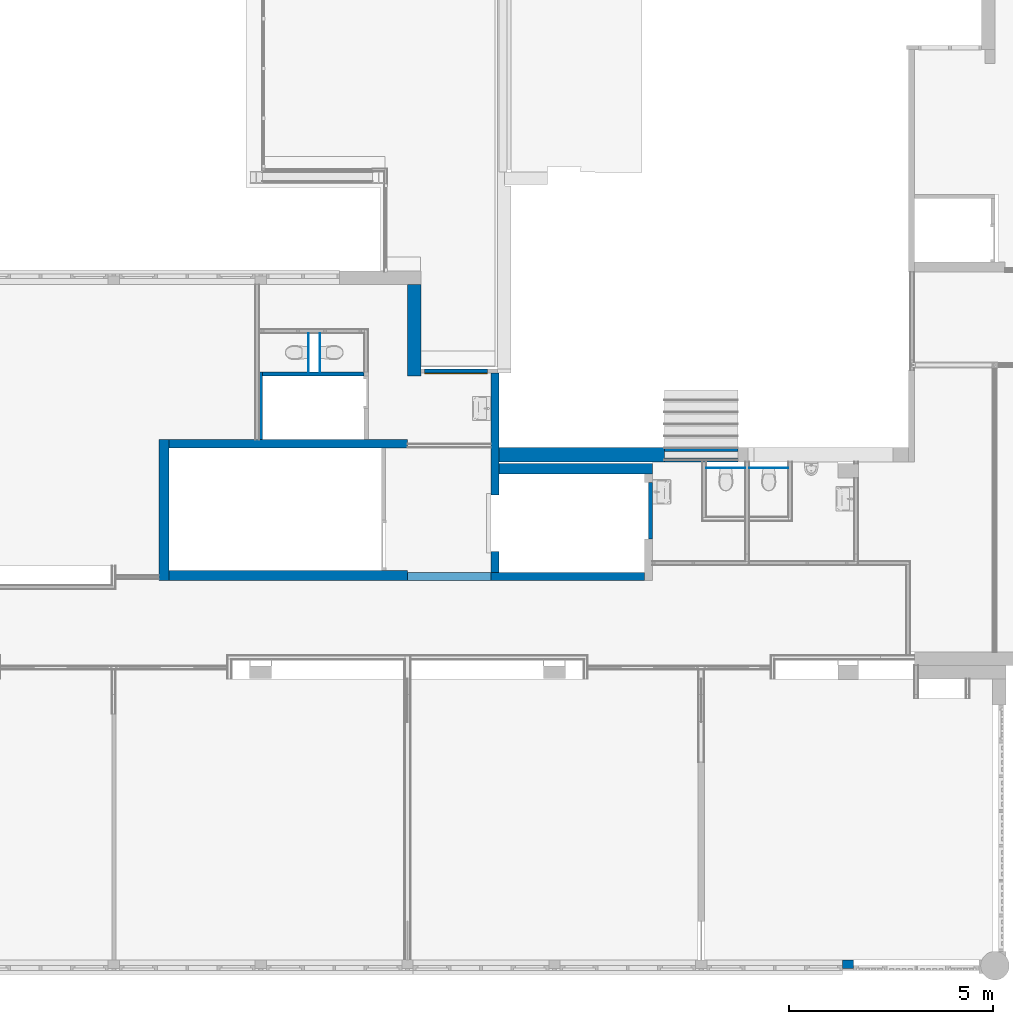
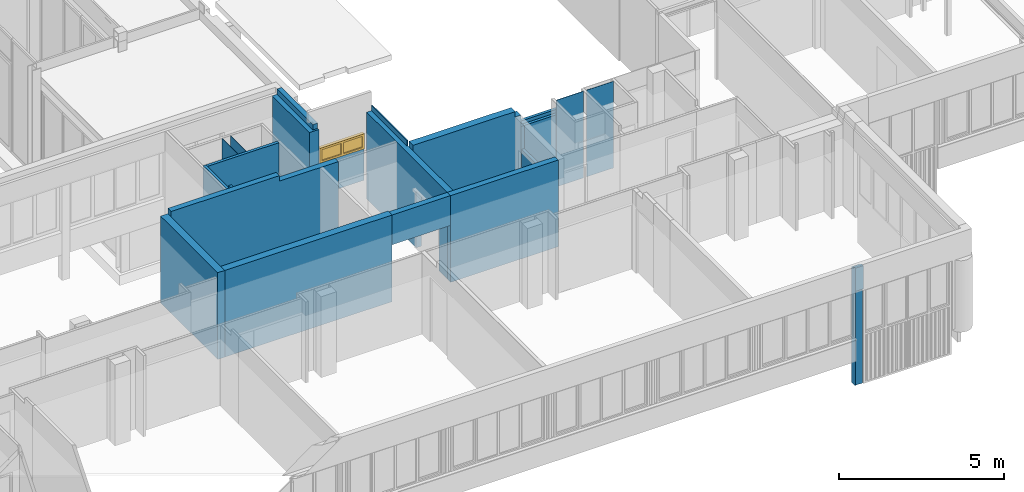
# One storey, part 42 of 99: 20 walls, 1 window, 3 openings.
"""IFC2X3 building model written with IfcOpenShell, lengths in millimetres."""

from ifc_helpers import new_model, entity, si_unit, converted_unit, derived_unit, money_unit, direction, frame, origin_with_axes, place, context, subcontext, project, spatial, open_shell, faceted_brep, surface_model, material, type_object, element, fill, save


model = new_model("IFC2X3")

# Units and contexts
model_context = context("Model", 3, precision=0.01, world=origin_with_axes(), true_north=direction((0.0, 1.0)))
body_context = subcontext(model_context, "Body", "Model", "MODEL_VIEW")
ifc_project = project(units=[si_unit("LENGTHUNIT", "METRE", prefix="MILLI"), si_unit("AREAUNIT", "SQUARE_METRE"), si_unit("VOLUMEUNIT", "CUBIC_METRE"), converted_unit("PLANEANGLEUNIT", "DEGREE", entity("IfcPlaneAngleMeasure", 0.0174532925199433), si_unit("PLANEANGLEUNIT", "RADIAN"), dimensions=[0, 0, 0, 0, 0, 0, 0]), money_unit("EUR"), converted_unit("TIMEUNIT", "Year", entity("IfcTimeMeasure", 31557600.0), si_unit("TIMEUNIT", "SECOND"), dimensions=[0, 0, 1, 0, 0, 0, 0]), si_unit("MASSUNIT", "GRAM", prefix="KILO"), si_unit("THERMODYNAMICTEMPERATUREUNIT", "DEGREE_CELSIUS"), si_unit("LUMINOUSINTENSITYUNIT", "LUMEN"), si_unit("ENERGYUNIT", "JOULE", prefix="MEGA"), derived_unit("THERMALCONDUCTANCEUNIT", [(si_unit("POWERUNIT", "WATT"), 1), (si_unit("LENGTHUNIT", "METRE"), -1), (si_unit("THERMODYNAMICTEMPERATUREUNIT", "KELVIN"), -1)]), derived_unit("SPECIFICHEATCAPACITYUNIT", [(si_unit("ENERGYUNIT", "JOULE"), 1), (si_unit("MASSUNIT", "GRAM", prefix="KILO"), -1), (si_unit("THERMODYNAMICTEMPERATUREUNIT", "KELVIN"), -1)]), derived_unit("MASSDENSITYUNIT", [(si_unit("MASSUNIT", "GRAM", prefix="KILO"), 1), (si_unit("VOLUMEUNIT", "CUBIC_METRE"), -1)])], contexts=[model_context])

# Site, building, storey
site_placement = place(None, origin_with_axes())
site = spatial("IfcSite", under=ifc_project, at=site_placement, Name="Site", CompositionType="ELEMENT")
building_placement = place(site_placement, origin_with_axes())
building = spatial("IfcBuilding", under=site, at=building_placement, Name="Naam gebouw", CompositionType="ELEMENT")
storey_placement = place(building_placement, frame((0.0, 0.0, 7650.0), z_axis=(0.0, 0.0, 1.0), x_axis=(1.0, 0.0, 0.0)))
storey = spatial("IfcBuildingStorey", under=building, at=storey_placement, Name="2e verdieping N", CompositionType="ELEMENT", Elevation=7650.0)

# Wall, opening, window
ifc_material_1 = material(Name="ALG - CONSTRUCTIEF")
wall_type_1 = type_object("IfcWallType", Name="ALG - CONSTRUCTIEF 100", PredefinedType="NOTDEFINED")
wall_1_placement = place(storey_placement, frame((18412.99914340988, 17874.75122651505, 720.0000000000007), z_axis=(0.0, 0.0, 1.0), x_axis=(1.0, 0.0, 0.0)))
wall_1 = element("IfcWall", 1, at=wall_1_placement, inside=storey, type_object=wall_type_1, material=ifc_material_1, Name="_Wand-x", context=body_context, shape_type="Brep", body=[
    faceted_brep([(0.0, 49.49999999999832, 1169.999999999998), (0.0, -50.00000000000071, 1169.999999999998), (1545.000000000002, -50.00000000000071, 1169.999999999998), (1545.000000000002, 49.49999999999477, 1169.999999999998), (1545.000000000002, 50.00000000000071, 1169.999999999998), (0.0, 50.00000000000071, 1169.999999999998), (0.0, 50.00000000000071, 0.0), (0.0, -50.00000000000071, 0.0), (1545.000000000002, -50.00000000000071, 0.0), (1545.000000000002, 50.00000000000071, 0.0)], [[[0, 1, 2, 3, 4, 5]], [[1, 0, 5, 6, 7]], [[2, 1, 7, 8]], [[3, 2, 8, 9, 4]], [[4, 9, 6, 5]], [[8, 7, 6, 9]]]),
])
opening_1_placement = place(wall_1_placement, frame((772.5000000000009, 0.0, 1169.999999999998), z_axis=(0.0, 0.0, 1.0), x_axis=(1.0, 0.0, 0.0)))
opening_1 = element("IfcOpeningElement", 2, at=opening_1_placement, cuts=wall_1, Name="_Merk-048", context=body_context, shape_type="Brep", body=[
    faceted_brep([(-772.5000000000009, 49.49999999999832, 0.0), (-772.5000000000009, 49.49999999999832, 550.0000000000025), (-772.5000000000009, 51.00000000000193, 550.0000000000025), (-772.5000000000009, 51.00000000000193, 0.0), (-772.5000000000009, -51.00000000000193, 0.0), (-772.5000000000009, -51.00000000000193, 550.0000000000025), (772.5000000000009, 49.49999999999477, 550.0000000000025), (772.5000000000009, 51.00000000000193, 550.0000000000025), (772.5000000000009, -51.00000000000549, 550.0000000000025), (772.5000000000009, 51.00000000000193, 0.0), (772.5000000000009, 49.49999999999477, 0.0), (772.5000000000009, -51.00000000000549, 0.0)], [[[0, 1, 2, 3]], [[1, 0, 4, 5]], [[6, 7, 2, 1, 5, 8]], [[7, 9, 3, 2]], [[0, 3, 9, 10, 11, 4]], [[5, 4, 11, 8]], [[6, 10, 9, 7]], [[10, 6, 8, 11]]]),
])
window_style = type_object("IfcWindowStyle", Name="R2 bl ol 27", ConstructionType="NOTDEFINED", OperationType="DOUBLE_PANEL_VERTICAL", ParameterTakesPrecedence=False, Sizeable=False)
window_placement = place(opening_1_placement, frame((772.5000000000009, 0.0, 0.0), z_axis=(0.0, 0.0, 1.0), x_axis=(-1.0, 0.0, 0.0)))
window = element("IfcWindow", 3, at=window_placement, inside=storey, type_object=window_style, Name="_Merk-048", ObjectType="WINDOW", OverallHeight=550.0, OverallWidth=1545.0, context=body_context, shape_type="SurfaceModel", body=[
    faceted_brep([(67.00000000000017, -49.49999999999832, 483.0000000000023), (67.00000000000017, 64.50000000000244, 483.0000000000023), (0.0, 64.50000000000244, 483.0000000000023), (0.0, -49.49999999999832, 483.0000000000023), (67.00000000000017, -49.49999999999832, 67.00000000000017), (67.00000000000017, 64.50000000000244, 67.00000000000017), (0.0, 64.50000000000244, 67.00000000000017), (0.0, -49.49999999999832, 67.00000000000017)], [[[0, 1, 2, 3]], [[4, 5, 1, 0]], [[1, 5, 6, 2]], [[3, 2, 6, 7]], [[0, 3, 7, 4]], [[7, 6, 5, 4]]]),
    faceted_brep([(1478.000000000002, -49.49999999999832, 67.00000000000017), (1478.000000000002, 64.50000000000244, 67.00000000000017), (1545.000000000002, 64.50000000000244, 67.00000000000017), (1545.000000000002, -49.49999999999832, 67.00000000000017), (1478.000000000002, -49.49999999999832, 483.0000000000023), (1478.000000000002, 64.50000000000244, 483.0000000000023), (1545.000000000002, 64.50000000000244, 483.0000000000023), (1545.000000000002, -49.49999999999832, 483.0000000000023)], [[[0, 1, 2, 3]], [[4, 5, 1, 0]], [[1, 5, 6, 2]], [[3, 2, 6, 7]], [[0, 3, 7, 4]], [[7, 6, 5, 4]]]),
    faceted_brep([(739.0000000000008, -49.49999999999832, 67.00000000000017), (739.0000000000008, 64.50000000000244, 67.00000000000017), (806.0000000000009, 64.50000000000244, 67.00000000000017), (806.0000000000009, -49.49999999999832, 67.00000000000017), (739.0000000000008, -49.49999999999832, 483.0000000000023), (739.0000000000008, 64.50000000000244, 483.0000000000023), (806.0000000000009, 64.50000000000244, 483.0000000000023), (806.0000000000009, -49.49999999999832, 483.0000000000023)], [[[0, 1, 2, 3]], [[4, 5, 1, 0]], [[1, 5, 6, 2]], [[3, 2, 6, 7]], [[0, 3, 7, 4]], [[7, 6, 5, 4]]]),
    faceted_brep([(67.00000000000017, -49.49999999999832, 67.00000000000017), (67.00000000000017, 64.50000000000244, 67.00000000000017), (0.0, 64.50000000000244, 67.00000000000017), (0.0, -49.49999999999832, 67.00000000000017), (739.0000000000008, -49.49999999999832, 67.00000000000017), (739.0000000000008, 64.50000000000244, 67.00000000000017), (806.0000000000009, 64.50000000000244, 67.00000000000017), (1478.000000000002, 64.50000000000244, 67.00000000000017), (1545.000000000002, 64.50000000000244, 67.00000000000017), (1545.000000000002, 64.50000000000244, 0.0), (0.0, 64.50000000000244, 0.0), (0.0, -49.49999999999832, 0.0), (1545.000000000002, -49.49999999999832, 0.0), (1545.000000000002, -49.49999999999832, 67.00000000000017), (1478.000000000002, -49.49999999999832, 67.00000000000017), (806.0000000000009, -49.49999999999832, 67.00000000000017)], [[[0, 1, 2, 3]], [[4, 5, 1, 0]], [[1, 5, 6, 7, 8, 9, 10, 2]], [[3, 2, 10, 11]], [[0, 3, 11, 12, 13, 14, 15, 4]], [[15, 6, 5, 4]], [[14, 7, 6, 15]], [[13, 8, 7, 14]], [[12, 9, 8, 13]], [[11, 10, 9, 12]]]),
    faceted_brep([(739.0000000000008, -49.49999999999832, 483.0000000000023), (739.0000000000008, 64.50000000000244, 483.0000000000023), (806.0000000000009, 64.50000000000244, 483.0000000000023), (806.0000000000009, -49.49999999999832, 483.0000000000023), (67.00000000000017, -49.49999999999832, 483.0000000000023), (67.00000000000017, 64.50000000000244, 483.0000000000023), (0.0, 64.50000000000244, 483.0000000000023), (0.0, 64.50000000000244, 550.0000000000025), (1545.000000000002, 64.50000000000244, 550.0000000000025), (1545.000000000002, 64.50000000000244, 483.0000000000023), (1478.000000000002, 64.50000000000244, 483.0000000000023), (1478.000000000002, -49.49999999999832, 483.0000000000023), (1545.000000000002, -49.49999999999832, 483.0000000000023), (1545.000000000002, -49.49999999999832, 550.0000000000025), (0.0, -49.49999999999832, 550.0000000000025), (0.0, -49.49999999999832, 483.0000000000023)], [[[0, 1, 2, 3]], [[4, 5, 1, 0]], [[1, 5, 6, 7, 8, 9, 10, 2]], [[3, 2, 10, 11]], [[0, 3, 11, 12, 13, 14, 15, 4]], [[15, 6, 5, 4]], [[14, 7, 6, 15]], [[13, 8, 7, 14]], [[12, 9, 8, 13]], [[11, 10, 9, 12]]]),
    surface_model("IfcShellBasedSurfaceModel", [(67.00000000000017, 0.5000000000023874, 67.00000000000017), (739.0000000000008, 0.5000000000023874, 67.00000000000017), (739.0000000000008, 0.5000000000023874, 483.0000000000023), (67.00000000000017, 0.5000000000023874, 483.0000000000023)], [open_shell([[[0, 1, 2, 3]]])]),
    surface_model("IfcShellBasedSurfaceModel", [(67.00000000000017, 20.50000000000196, 67.00000000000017), (67.00000000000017, 20.50000000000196, 483.0000000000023), (739.0000000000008, 20.50000000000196, 483.0000000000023), (739.0000000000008, 20.50000000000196, 67.00000000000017)], [open_shell([[[0, 1, 2, 3]]])]),
    surface_model("IfcShellBasedSurfaceModel", [(806.0000000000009, 0.5000000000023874, 67.00000000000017), (1478.000000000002, 0.5000000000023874, 67.00000000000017), (1478.000000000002, 0.5000000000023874, 483.0000000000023), (806.0000000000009, 0.5000000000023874, 483.0000000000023)], [open_shell([[[0, 1, 2, 3]]])]),
    surface_model("IfcShellBasedSurfaceModel", [(806.0000000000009, 20.50000000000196, 67.00000000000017), (806.0000000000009, 20.50000000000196, 483.0000000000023), (1478.000000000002, 20.50000000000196, 483.0000000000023), (1478.000000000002, 20.50000000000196, 67.00000000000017)], [open_shell([[[0, 1, 2, 3]]])]),
])
fill(opening_1, window)

# Walls
wall_2_placement = place(storey_placement, frame((16937.79224075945, 17806.42315075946, -99.99999999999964), z_axis=(0.0, 0.0, 1.0), x_axis=(-1.0, 0.0, 0.0)))
element("IfcWall", 4, at=wall_2_placement, inside=storey, type_object=wall_type_1, material=ifc_material_1, Name="_Wand-x", context=body_context, shape_type="Brep", body=[
    faceted_brep([(2487.792240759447, -50.00000000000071, 99.99999999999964), (2487.792240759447, -50.00000000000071, 3299.999999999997), (0.0, -50.00000000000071, 3299.999999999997), (0.0, -50.00000000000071, 99.99999999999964), (2487.792240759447, 50.00000000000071, 99.99999999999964), (2487.792240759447, 50.00000000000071, 3299.999999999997), (0.0, 50.00000000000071, 3299.999999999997), (0.0, 50.00000000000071, 99.99999999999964)], [[[0, 1, 2, 3]], [[4, 5, 1, 0]], [[5, 6, 2, 1]], [[3, 2, 6, 7]], [[4, 0, 3, 7]], [[7, 6, 5, 4]]]),
])
wall_3_placement = place(storey_placement, frame((14400.0, 17806.42315075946, -99.99999999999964), z_axis=(0.0, 0.0, 1.0), x_axis=(0.0, -1.0, 0.0)))
element("IfcWall", 5, at=wall_3_placement, inside=storey, type_object=wall_type_1, material=ifc_material_1, Name="_Wand-x", context=body_context, shape_type="Brep", body=[
    faceted_brep([(-50.00000000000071, -50.00000000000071, 99.99999999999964), (-50.00000000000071, -49.99999999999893, 3299.999999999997), (-50.00000000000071, 50.00000000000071, 3299.999999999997), (-50.00000000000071, 50.00000000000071, 99.99999999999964), (1490.510725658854, -50.00000000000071, 3500.0), (1490.510725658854, -50.00000000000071, 3299.999999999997), (1610.502890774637, -50.00000000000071, 99.99999999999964), (1610.502890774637, -50.00000000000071, 3500.0), (1490.510725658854, 50.00000000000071, 3299.999999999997), (1490.510725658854, 50.00000000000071, 3500.0), (1610.502890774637, 50.00000000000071, 3500.0), (1610.502890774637, 49.99999999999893, 99.99999999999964)], [[[0, 1, 2, 3]], [[4, 5, 1, 0, 6, 7]], [[5, 8, 2, 1]], [[2, 8, 9, 10, 11, 3]], [[6, 0, 3, 11]], [[5, 4, 9, 8]], [[7, 6, 11, 10]], [[10, 9, 4, 7]]]),
])

# Wall, opening
wall_type_2 = type_object("IfcWallType", Name="ALG - CONSTRUCTIEF 200", PredefinedType="NOTDEFINED")
wall_4_placement = place(storey_placement, frame((20040.99999999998, 12744.60803964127, -99.99999999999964), z_axis=(0.0, 0.0, 1.0), x_axis=(-1.0, 0.0, 0.0)))
wall_4 = element("IfcWall", 6, at=wall_4_placement, inside=storey, type_object=wall_type_2, material=ifc_material_1, Name="_Wand-x", context=body_context, shape_type="Brep", body=[
    faceted_brep([(0.0, 0.0, 2199.999999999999), (0.0, -199.9999999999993, 2199.999999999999), (0.0, -199.9999999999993, 3299.999999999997), (0.0, 0.0, 3299.999999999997), (2040.999999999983, -199.9999999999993, 2199.999999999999), (2040.999999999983, 0.0, 2199.999999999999), (2040.999999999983, -199.9999999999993, 3299.999999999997), (2040.999999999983, 0.0, 3299.999999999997)], [[[0, 1, 2, 3]], [[4, 1, 0, 5]], [[1, 4, 6, 2]], [[3, 2, 6, 7]], [[5, 0, 3, 7]], [[4, 5, 7, 6]]]),
])
opening_2_placement = place(wall_4_placement, frame((1020.499999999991, 0.0, 99.99999999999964), z_axis=(0.0, 0.0, 1.0), x_axis=(1.0, 0.0, 0.0)))
element("IfcOpeningElement", 7, at=opening_2_placement, cuts=wall_4, Name="_", context=body_context, shape_type="Brep", body=[
    faceted_brep([(-1020.499999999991, -201.0000000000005, 2100.0), (-1020.499999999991, -201.0000000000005, 0.0), (1020.499999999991, -201.0000000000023, 0.0), (1020.499999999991, -201.0000000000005, 2100.0), (-1020.499999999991, 1.000000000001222, 2100.0), (-1020.499999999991, 1.000000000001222, 0.0), (1020.499999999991, 0.9999999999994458, 0.0), (1020.499999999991, 1.000000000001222, 2100.0)], [[[0, 1, 2, 3]], [[4, 5, 1, 0]], [[5, 6, 2, 1]], [[6, 7, 3, 2]], [[7, 4, 0, 3]], [[6, 5, 4, 7]]]),
])

# Wall
wall_5_placement = place(storey_placement, frame((23802.99999999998, 12744.60803964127, 0.0), z_axis=(0.0, 0.0, 1.0), x_axis=(-1.0, 0.0, 0.0)))
element("IfcWall", 8, at=wall_5_placement, inside=storey, type_object=wall_type_2, material=ifc_material_1, Name="_Wand-x", context=body_context, shape_type="Brep", body=[
    faceted_brep([(3762.0, 0.0, 3199.999999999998), (0.0, 0.0, 3199.999999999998), (0.0, -199.9999999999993, 3199.999999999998), (3762.0, -199.9999999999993, 3199.999999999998), (3762.0, 0.0, 0.0), (0.0, 0.0, 0.0), (0.0, -199.9999999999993, 0.0), (3762.0, -200.0000000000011, 0.0)], [[[0, 1, 2, 3]], [[4, 5, 1, 0]], [[6, 2, 1, 5]], [[3, 2, 6, 7]], [[7, 4, 0, 3]], [[7, 6, 5, 4]]]),
])

# Wall, opening
wall_6_placement = place(storey_placement, frame((20040.99999999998, 17874.75122651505, -99.99999999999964), z_axis=(0.0, 0.0, 1.0), x_axis=(0.0, -1.0, 0.0)))
wall_6 = element("IfcWall", 9, at=wall_6_placement, inside=storey, type_object=wall_type_2, material=ifc_material_1, Name="_Wand-x", context=body_context, shape_type="Brep", body=[
    faceted_brep([(4414.143186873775, 199.9999999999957, 99.99999999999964), (4414.143186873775, 200.0000000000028, 2199.999999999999), (3034.143186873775, 200.0000000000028, 2199.999999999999), (3034.143186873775, 199.9999999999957, 99.99999999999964), (50.00000000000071, 199.9999999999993, 99.99999999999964), (50.00000000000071, 199.9999999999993, 3500.0), (2203.838801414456, 200.0000000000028, 3500.0), (2203.838801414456, 200.0000000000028, 3299.999999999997), (4880.143186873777, 200.0000000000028, 3299.999999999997), (4930.143186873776, 199.9999999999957, 3299.999999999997), (4930.143186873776, 199.9999999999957, 99.99999999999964), (4414.143186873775, 0.0, 99.99999999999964), (4414.143186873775, 0.0, 2199.999999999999), (3034.143186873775, 0.0, 2199.999999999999), (3034.143186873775, 0.0, 99.99999999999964), (50.00000000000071, 0.0, 99.99999999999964), (49.99999999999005, 0.0, 3299.999999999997), (49.99999999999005, 165.0000000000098, 3299.999999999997), (49.99999999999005, 165.0000000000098, 3500.0), (2203.838801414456, 165.0000000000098, 3500.0), (2203.838801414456, 165.0000000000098, 3299.999999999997), (4930.143186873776, 0.0, 3299.999999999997), (4930.143186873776, 0.0, 99.99999999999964)], [[[0, 1, 2, 3, 4, 5, 6, 7, 8, 9, 10]], [[1, 0, 11, 12]], [[2, 1, 12, 13]], [[3, 2, 13, 14]], [[3, 14, 15, 4]], [[5, 4, 15, 16, 17, 18]], [[18, 19, 6, 5]], [[7, 6, 19, 20]], [[17, 16, 21, 9, 8, 7, 20]], [[9, 21, 22, 10]], [[11, 0, 10, 22]], [[12, 11, 22, 21, 16, 15, 14, 13]], [[19, 18, 17, 20]]]),
])
opening_3_placement = place(wall_6_placement, frame((3724.143186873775, 0.0, 99.99999999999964), z_axis=(0.0, 0.0, 1.0), x_axis=(1.0, 0.0, 0.0)))
element("IfcOpeningElement", 10, at=opening_3_placement, cuts=wall_6, Name="_", context=body_context, shape_type="Brep", body=[
    faceted_brep([(689.9999999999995, 201.0000000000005, 2100.0), (689.9999999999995, 201.0000000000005, 0.0), (-689.9999999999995, 201.0000000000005, 0.0), (-689.9999999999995, 201.0000000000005, 2100.0), (689.9999999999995, -1.000000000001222, 2100.0), (689.9999999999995, -1.000000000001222, 0.0), (-689.9999999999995, -1.000000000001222, 0.0), (-689.9999999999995, -1.000000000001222, 2100.0)], [[[0, 1, 2, 3]], [[4, 5, 1, 0]], [[5, 6, 2, 1]], [[6, 7, 3, 2]], [[7, 4, 0, 3]], [[6, 5, 4, 7]]]),
])

# Walls
wall_7_placement = place(storey_placement, frame((18000.0, 15995.92025998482, -99.99999999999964), z_axis=(0.0, 0.0, 1.0), x_axis=(-1.0, 0.0, 0.0)))
element("IfcWall", 11, at=wall_7_placement, inside=storey, type_object=wall_type_2, material=ifc_material_1, Name="_Wand-x", context=body_context, shape_type="Brep", body=[
    faceted_brep([(5842.26022616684, -200.0000000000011, 3500.0), (2059.499481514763, -200.0000000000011, 3500.0), (2059.499481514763, -200.0000000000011, 3299.999999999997), (0.0, -200.0000000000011, 3299.999999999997), (0.0, -200.0000000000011, 99.99999999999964), (5844.499481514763, -200.0000000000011, 99.99999999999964), (5844.499481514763, -200.0000000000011, 3299.999999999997), (5842.26022616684, -200.0000000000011, 3299.999999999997), (5842.26022616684, 0.0, 3500.0), (2059.499481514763, 0.0, 3500.0), (2059.499481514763, 0.0, 3299.999999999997), (0.0, 0.0, 3299.999999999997), (0.0, 0.0, 99.99999999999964), (2117.499481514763, 0.0, 99.99999999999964), (5844.49948151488, 0.0, 99.99999999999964), (5844.49948151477, 0.0, 3299.999999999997), (5842.26022616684, 0.0, 3299.999999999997)], [[[0, 1, 2, 3, 4, 5, 6, 7]], [[8, 9, 1, 0]], [[10, 2, 1, 9]], [[10, 11, 3, 2]], [[4, 3, 11, 12]], [[5, 4, 12, 13, 14]], [[14, 15, 6, 5]], [[16, 7, 6, 15]], [[16, 8, 0, 7]], [[11, 10, 9, 8, 16, 15, 14, 13, 12]]]),
])
wall_type_3 = type_object("IfcWallType", Name="ALG - CONSTRUCTIEF 330", PredefinedType="NOTDEFINED")
wall_8_placement = place(storey_placement, frame((17999.99977997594, 19995.91242510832, -99.99999999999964), z_axis=(0.0, 0.0, 1.0), x_axis=(-6.667395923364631e-07, -0.9999999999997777, 0.0)))
element("IfcWall", 12, at=wall_8_placement, inside=storey, type_object=wall_type_3, material=ifc_material_1, Name="_Wand-x", context=body_context, shape_type="Brep", body=[
    faceted_brep([(0.0, 0.0, 0.0), (0.0, 0.0, 3299.999999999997), (-0.0009594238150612, 164.4085584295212, 3299.999999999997), (-0.0009594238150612, 164.4085584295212, 3500.0), (-0.001925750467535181, 329.9999999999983, 3500.0), (-0.001925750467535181, 329.9999999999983, 0.0), (2239.48927434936, 0.0, 3299.999999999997), (2171.161198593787, -4.555703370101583e-05, 0.0), (2171.161198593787, -4.555703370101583e-05, 99.99999999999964), (2239.48927434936, 0.0, 99.99999999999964), (2171.160978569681, 329.9999999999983, 3299.999999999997), (2171.161088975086, 164.4100060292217, 3299.999999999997), (2239.489274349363, 329.9999999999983, 3299.999999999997), (2171.161088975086, 164.4100060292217, 3500.0), (2171.160978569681, 329.9999999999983, 3500.0), (2239.489274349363, 329.9999999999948, 99.99999999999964), (2171.160978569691, 329.9999999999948, 99.99999999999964), (2171.160978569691, 329.9999999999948, 0.0)], [[[0, 1, 2, 3, 4, 5]], [[6, 1, 0, 7, 8, 9]], [[10, 11, 2, 1, 6, 12]], [[11, 13, 3, 2]], [[4, 3, 13, 14]], [[14, 10, 12, 15, 16, 17, 5, 4]], [[5, 17, 7, 0]], [[7, 17, 16, 8]], [[8, 16, 15, 9]], [[15, 12, 6, 9]], [[14, 13, 11, 10]]]),
])
wall_type_4 = type_object("IfcWallType", Name="ALG - CONSTRUCTIEF 250", PredefinedType="NOTDEFINED")
wall_9_placement = place(storey_placement, frame((18000.0, 12744.60803964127, -99.99999999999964), z_axis=(0.0, 0.0, 1.0), x_axis=(-1.0, 0.0, 0.0)))
element("IfcWall", 13, at=wall_9_placement, inside=storey, type_object=wall_type_4, material=ifc_material_1, Name="_Wand-x", context=body_context, shape_type="Brep", body=[
    faceted_brep([(5844.49948151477, -250.0, 3299.999999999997), (5842.26022616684, -249.9999999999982, 3299.999999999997), (2059.499481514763, -249.9999999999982, 3299.999999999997), (0.0, -250.0, 3299.999999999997), (0.0, -250.0, 99.99999999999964), (2059.499481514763, -249.9999999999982, 99.99999999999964), (5844.49948151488, -249.9999999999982, 99.99999999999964), (5844.499481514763, 0.0, 3299.999999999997), (0.0, 0.0, 3299.999999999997), (0.0, 0.0, 99.99999999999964), (5844.499481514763, 0.0, 99.99999999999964)], [[[0, 1, 2, 3, 4, 5, 6]], [[0, 7, 8, 3, 2, 1]], [[4, 3, 8, 9]], [[6, 5, 4, 9, 10]], [[10, 7, 0, 6]], [[8, 7, 10, 9]]]),
])
wall_10_placement = place(storey_placement, frame((20040.99999999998, 15481.60803964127, -99.99999999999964), z_axis=(0.0, 0.0, 1.0), x_axis=(1.0, 0.0, 0.0)))
element("IfcWall", 14, at=wall_10_placement, inside=storey, type_object=wall_type_4, material=ifc_material_1, Name="_Wand-x", context=body_context, shape_type="Brep", body=[
    faceted_brep([(3962.0, -125.0, 3299.999999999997), (3962.0, -125.0, 99.99999999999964), (3962.0, 125.0, 99.99999999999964), (3962.0, 125.0, 3299.999999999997), (199.9999999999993, -125.0, 3500.0), (199.9999999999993, -125.0, 99.99999999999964), (3762.0, -125.0, 3299.999999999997), (3762.0, -125.0, 3500.0), (199.9999999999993, 125.0, 99.99999999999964), (199.9999999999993, 125.0, 3500.0), (3762.0, 125.0, 3500.0), (3762.0, 125.0, 3299.999999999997)], [[[0, 1, 2, 3]], [[4, 5, 1, 0, 6, 7]], [[5, 8, 2, 1]], [[3, 2, 8, 9, 10, 11]], [[11, 6, 0, 3]], [[9, 8, 5, 4]], [[7, 6, 11, 10]], [[9, 4, 7, 10]]]),
])
wall_11_placement = place(storey_placement, frame((12155.50051848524, 15995.92025998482, -99.99999999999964), z_axis=(0.0, 0.0, 1.0), x_axis=(0.0, -1.0, 0.0)))
element("IfcWall", 15, at=wall_11_placement, inside=storey, type_object=wall_type_4, material=ifc_material_1, Name="_Wand-x", context=body_context, shape_type="Brep", body=[
    faceted_brep([(-200.0000000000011, -250.0, 99.99999999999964), (-200.0000000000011, -250.0, 3299.999999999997), (-200.0000000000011, 0.0, 3299.999999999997), (-200.0000000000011, 0.0, 99.99999999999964), (3251.31222034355, -250.0, 99.99999999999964), (3251.31222034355, -250.0, 3299.999999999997), (3251.31222034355, 0.0, 3299.999999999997), (3251.31222034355, 0.0, 99.99999999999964), (3001.312220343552, -1.172395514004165e-10, 99.99999999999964), (0.0, -1.172395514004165e-10, 99.99999999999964)], [[[0, 1, 2, 3]], [[4, 5, 1, 0]], [[5, 6, 2, 1]], [[3, 2, 6, 7, 8, 9]], [[4, 0, 3, 9, 8, 7]], [[7, 6, 5, 4]]]),
])
wall_type_5 = type_object("IfcWallType", Name="ALG - CONSTRUCTIEF 350", PredefinedType="NOTDEFINED")
wall_12_placement = place(storey_placement, frame((24296.00000000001, 16002.24577159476, 1039.999999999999), z_axis=(0.0, 0.0, 1.0), x_axis=(-0.9999999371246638, -0.0003546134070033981, 0.0)))
element("IfcWall", 16, at=wall_12_placement, inside=storey, type_object=wall_type_5, material=ifc_material_1, Name="_Wand-x", context=body_context, shape_type="Brep", body=[
    faceted_brep([(4090.124371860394, 349.9999999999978, 0.0), (4090.000257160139, 0.0, 0.0), (0.0, 0.0, 0.0), (0.0, 350.0000000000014, 0.0), (4090.124371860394, 349.9999999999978, 1500.0), (4090.000257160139, 0.0, 1500.0), (0.0, 0.0, 1500.0), (0.0, 350.0000000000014, 1500.0)], [[[0, 1, 2, 3]], [[1, 0, 4, 5]], [[1, 5, 6, 2]], [[7, 3, 2, 6]], [[4, 0, 3, 7]], [[5, 4, 7, 6]]]),
])
ifc_material_2 = material(Name="Steen - Betonblok")
wall_type_6 = type_object("IfcWallType", Name="Steen - Betonblok 100", PredefinedType="NOTDEFINED")
wall_13_placement = place(storey_placement, frame((24296.00000000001, 16000.91242510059, 0.0), z_axis=(0.0, 0.0, 1.0), x_axis=(1.0, 0.0, 0.0)))
element("IfcWall", 17, at=wall_13_placement, inside=storey, type_object=wall_type_6, material=ifc_material_2, Name="_Wand-x", context=body_context, shape_type="Brep", body=[
    faceted_brep([(1800.000000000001, -99.99999999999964, 2539.999999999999), (1800.000000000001, -99.99999999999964, 839.9999999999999), (1800.000000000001, 0.0, 839.9999999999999), (1800.000000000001, 0.0, 2539.999999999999), (1795.999999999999, -99.99999999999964, 0.0), (1795.999999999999, -99.99999999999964, 839.9999999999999), (0.0, -99.99999999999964, 2539.999999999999), (0.0, -99.99999999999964, 839.9999999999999), (53.99999999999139, -99.99999999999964, 839.9999999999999), (53.99999999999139, -99.99999999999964, 0.0), (1795.999999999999, 0.0, 839.9999999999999), (1795.999999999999, 0.0, 0.0), (53.99999999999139, 0.0, 0.0), (53.99999999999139, 0.0, 839.9999999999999), (0.0, 0.0, 839.9999999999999), (0.0, 0.0, 2539.999999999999)], [[[0, 1, 2, 3]], [[4, 5, 1, 0, 6, 7, 8, 9]], [[5, 10, 2, 1]], [[2, 10, 11, 12, 13, 14, 15, 3]], [[15, 6, 0, 3]], [[4, 11, 10, 5]], [[15, 14, 7, 6]], [[7, 14, 13, 8]], [[8, 13, 12, 9]], [[12, 11, 4, 9]]]),
])
wall_14_placement = place(storey_placement, frame((24002.99999999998, 13765.37242633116, 0.0), z_axis=(0.0, 0.0, 1.0), x_axis=(0.0, 1.0, 0.0)))
element("IfcWall", 18, at=wall_14_placement, inside=storey, type_object=wall_type_6, material=ifc_material_2, Name="_Wand-x", context=body_context, shape_type="Brep", body=[
    faceted_brep([(0.0, 0.0, 2100.0), (1379.999999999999, 0.0, 2100.0), (1379.999999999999, 100.0000000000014, 2100.0), (0.0, 100.0000000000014, 2100.0), (0.0, 0.0, 0.0), (1379.999999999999, 0.0, 0.0), (1379.999999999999, 100.0000000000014, 0.0), (0.0, 100.0000000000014, 0.0)], [[[0, 1, 2, 3]], [[4, 5, 1, 0]], [[2, 1, 5, 6]], [[3, 2, 6, 7]], [[4, 0, 3, 7]], [[7, 6, 5, 4]]]),
])
wall_15_placement = place(storey_placement, frame((24296.00000000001, 15650.91242510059, 0.0), z_axis=(0.0, 0.0, 1.0), x_axis=(1.0, 0.0, 0.0)))
element("IfcWall", 19, at=wall_15_placement, inside=storey, type_object=wall_type_6, material=ifc_material_2, Name="_Wand-x", context=body_context, shape_type="Brep", body=[
    faceted_brep([(1800.000000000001, 0.0, 2539.999999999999), (1800.000000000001, 0.0, 839.9999999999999), (1800.000000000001, 99.99999999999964, 839.9999999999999), (1800.000000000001, 99.99999999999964, 2539.999999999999), (1795.999999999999, 0.0, 0.0), (1795.999999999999, 0.0, 839.9999999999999), (0.0, 0.0, 2539.999999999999), (0.0, 0.0, 839.9999999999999), (53.99999999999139, 0.0, 839.9999999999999), (53.99999999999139, 0.0, 0.0), (1795.999999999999, 99.99999999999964, 839.9999999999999), (1795.999999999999, 99.99999999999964, 0.0), (53.99999999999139, 99.99999999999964, 0.0), (53.99999999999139, 99.99999999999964, 839.9999999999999), (0.0, 99.99999999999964, 839.9999999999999), (0.0, 99.99999999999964, 2539.999999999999)], [[[0, 1, 2, 3]], [[4, 5, 1, 0, 6, 7, 8, 9]], [[5, 10, 2, 1]], [[2, 10, 11, 12, 13, 14, 15, 3]], [[15, 6, 0, 3]], [[4, 11, 10, 5]], [[15, 14, 7, 6]], [[7, 14, 13, 8]], [[8, 13, 12, 9]], [[12, 11, 4, 9]]]),
])
ifc_material_3 = material(Name="ALG - GEVEL")
wall_type_7 = type_object("IfcWallType", Name="ALG - GEVEL 260", PredefinedType="NOTDEFINED")
wall_16_placement = place(storey_placement, frame((28662.49999999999, 3185.658971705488, -1060.0), z_axis=(0.0, 0.0, 1.0), x_axis=(1.0, 0.0, 0.0)))
element("IfcWall", 20, at=wall_16_placement, inside=storey, type_object=wall_type_7, material=ifc_material_3, Name="_Wand-x", context=body_context, shape_type="Brep", body=[
    faceted_brep([(275.0378089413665, 44.00973599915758, 3500.0), (275.0378089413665, 0.009735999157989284, 3500.0), (0.03780894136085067, 0.009735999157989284, 3500.0), (0.03780894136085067, 44.00973599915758, 3500.0), (275.0000000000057, 0.0, 4359.999999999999), (0.0, 0.0, 4359.999999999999), (0.0, 0.0, 0.0), (0.03780894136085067, 44.00973599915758, 0.0), (275.0378089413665, 44.00973599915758, 0.0), (275.0000000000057, 110.2534533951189, 4259.999999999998), (275.0000000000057, 110.2534533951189, 4359.999999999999), (0.0, 110.2534533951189, 4359.999999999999), (0.0, 110.2534533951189, 4259.999999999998), (0.0, 259.9999999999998, 4259.999999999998), (0.0, 259.9999999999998, 0.0), (275.0000000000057, 259.9999999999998, 0.0), (275.0000000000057, 259.9999999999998, 4259.999999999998)], [[[0, 1, 2, 3]], [[1, 0, 4]], [[2, 1, 4, 5, 6]], [[7, 3, 2, 6]], [[3, 7, 8, 0]], [[4, 0, 9]], [[5, 4, 10, 11]], [[12, 13, 14, 6, 5, 11]], [[8, 7, 6, 14, 15]], [[8, 15, 0]], [[15, 9, 0]], [[10, 4, 9]], [[9, 12, 11, 10]], [[13, 12, 9, 16]], [[15, 14, 13, 16]], [[16, 9, 15]]]),
])
ifc_material_4 = material(Name="Gipsplaat")
wall_type_8 = type_object("IfcWallType", Name="Metalstud 150 enkel 150", PredefinedType="NOTDEFINED")
wall_17_placement = place(storey_placement, frame((27327.99999999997, 15500.91242510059, 0.0), z_axis=(0.0, 0.0, 1.0), x_axis=(-1.0, 0.0, 0.0)))
element("IfcWall", 21, at=wall_17_placement, inside=storey, type_object=wall_type_8, material=ifc_material_4, Name="_Wand-x", context=body_context, shape_type="Brep", body=[
    faceted_brep([(0.0, -12.49999999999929, 3199.999999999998), (949.9999999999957, -12.49999999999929, 3199.999999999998), (949.9999999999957, 0.0, 3199.999999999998), (0.0, 0.0, 3199.999999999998), (0.0, -12.49999999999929, 0.0), (949.9999999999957, -12.49999999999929, 0.0), (949.9999999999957, 0.0, 0.0), (0.0, 0.0, 0.0)], [[[0, 1, 2, 3]], [[4, 5, 1, 0]], [[2, 1, 5, 6]], [[3, 2, 6, 7]], [[4, 0, 3, 7]], [[7, 6, 5, 4]]]),
])
wall_18_placement = place(storey_placement, frame((15562.5, 18806.42315075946, 0.0), z_axis=(0.0, 0.0, 1.0), x_axis=(0.0, -1.0, 0.0)))
element("IfcWall", 22, at=wall_18_placement, inside=storey, type_object=wall_type_8, material=ifc_material_4, Name="_Wand-x", context=body_context, shape_type="Brep", body=[
    faceted_brep([(0.0, 12.49999999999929, 0.0), (950.0000000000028, 12.49999999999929, 0.0), (950.0000000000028, 0.0, 0.0), (0.0, 0.0, 0.0), (0.0, 12.50000000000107, 3199.999999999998), (950.0000000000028, 12.49999999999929, 3199.999999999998), (950.0000000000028, 0.0, 3199.999999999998), (0.0, 0.0, 3199.999999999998)], [[[0, 1, 2, 3]], [[4, 5, 1, 0]], [[2, 1, 5, 6]], [[3, 2, 6, 7]], [[4, 0, 3, 7]], [[7, 6, 5, 4]]]),
])
wall_19_placement = place(storey_placement, frame((15862.5, 18806.42315075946, 0.0), z_axis=(0.0, 0.0, 1.0), x_axis=(0.0, -1.0, 0.0)))
element("IfcWall", 23, at=wall_19_placement, inside=storey, type_object=wall_type_8, material=ifc_material_4, Name="_Wand-x", context=body_context, shape_type="Brep", body=[
    faceted_brep([(0.0, -12.49999999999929, 3199.999999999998), (950.0000000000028, -12.49999999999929, 3199.999999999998), (950.0000000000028, 0.0, 3199.999999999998), (0.0, 0.0, 3199.999999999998), (0.0, -12.49999999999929, 0.0), (950.0000000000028, -12.49999999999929, 0.0), (950.0000000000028, 0.0, 0.0), (0.0, 0.0, 0.0)], [[[0, 1, 2, 3]], [[4, 5, 1, 0]], [[2, 1, 5, 6]], [[3, 2, 6, 7]], [[4, 0, 3, 7]], [[7, 6, 5, 4]]]),
])
wall_20_placement = place(storey_placement, frame((25327.99999999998, 15500.91242510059, 0.0), z_axis=(0.0, 0.0, 1.0), x_axis=(1.0, 0.0, 0.0)))
element("IfcWall", 24, at=wall_20_placement, inside=storey, type_object=wall_type_8, material=ifc_material_4, Name="_Wand-x", context=body_context, shape_type="Brep", body=[
    faceted_brep([(0.0, 12.49999999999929, 0.0), (949.9999999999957, 12.49999999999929, 0.0), (949.9999999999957, 0.0, 0.0), (0.0, 0.0, 0.0), (0.0, 12.50000000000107, 3199.999999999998), (949.9999999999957, 12.50000000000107, 3199.999999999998), (949.9999999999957, 0.0, 3199.999999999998), (0.0, 0.0, 3199.999999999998)], [[[0, 1, 2, 3]], [[4, 5, 1, 0]], [[2, 1, 5, 6]], [[3, 2, 6, 7]], [[4, 0, 3, 7]], [[7, 6, 5, 4]]]),
])

save(model, "model.ifc")
